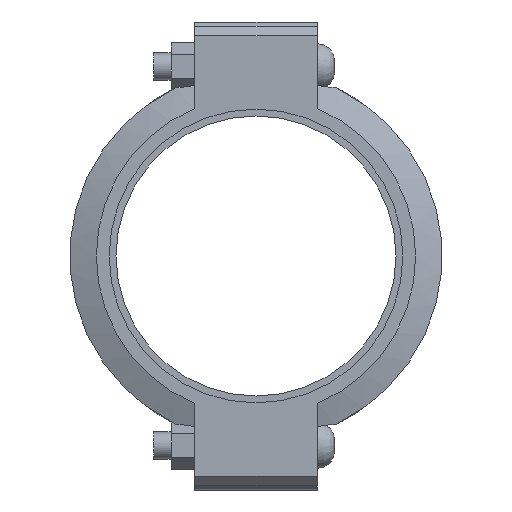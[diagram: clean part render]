
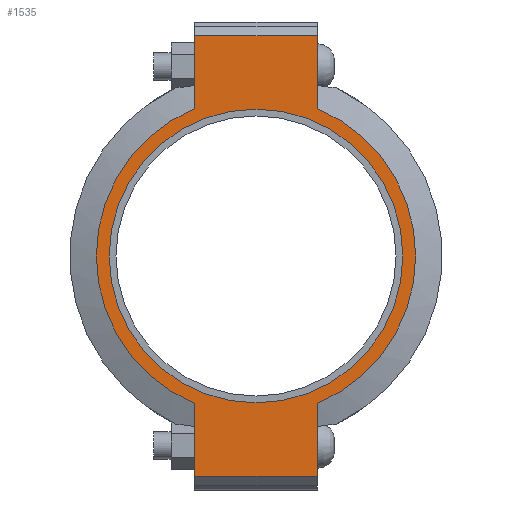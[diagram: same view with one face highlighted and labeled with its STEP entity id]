
A CAD part, left-side view. The second image highlights one B-rep face of the part: STEP entity #1535.
In plain terms, the highlighted planar face has unit normal (-1, 0, 0) as drawn and (0, 0, 1) by its records, which use the part's own axes.
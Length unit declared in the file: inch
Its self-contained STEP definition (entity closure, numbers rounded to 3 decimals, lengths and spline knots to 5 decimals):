
#162=LINE('',#2617,#249);
#173=LINE('',#2668,#260);
#179=LINE('',#2694,#266);
#181=LINE('',#2697,#268);
#182=LINE('',#2702,#269);
#183=LINE('',#2703,#270);
#249=VECTOR('',#2115,0.3937);
#260=VECTOR('',#2146,0.3937);
#266=VECTOR('',#2164,0.3937);
#268=VECTOR('',#2168,0.3937);
#269=VECTOR('',#2173,0.3937);
#270=VECTOR('',#2174,0.3937);
#328=FACE_BOUND('',#487,.T.);
#388=FACE_OUTER_BOUND('',#486,.T.);
#486=EDGE_LOOP('',(#1224,#1225,#1226,#1227,#1228,#1229,#1230,#1231));
#487=EDGE_LOOP('',(#1232));
#592=CIRCLE('',#1780,5.845);
#593=CIRCLE('',#1781,5.845);
#594=CIRCLE('',#1782,5.375);
#701=VERTEX_POINT('',#2614);
#702=VERTEX_POINT('',#2616);
#719=VERTEX_POINT('',#2663);
#720=VERTEX_POINT('',#2667);
#727=VERTEX_POINT('',#2689);
#728=VERTEX_POINT('',#2693);
#729=VERTEX_POINT('',#2699);
#730=VERTEX_POINT('',#2701);
#731=VERTEX_POINT('',#2705);
#871=EDGE_CURVE('',#702,#701,#162,.T.);
#892=EDGE_CURVE('',#720,#719,#173,.T.);
#903=EDGE_CURVE('',#728,#727,#179,.T.);
#905=EDGE_CURVE('',#728,#701,#181,.T.);
#906=EDGE_CURVE('',#727,#729,#592,.T.);
#907=EDGE_CURVE('',#729,#730,#182,.T.);
#908=EDGE_CURVE('',#720,#730,#183,.T.);
#909=EDGE_CURVE('',#719,#702,#593,.T.);
#910=EDGE_CURVE('',#731,#731,#594,.T.);
#1224=ORIENTED_EDGE('',*,*,#905,.F.);
#1225=ORIENTED_EDGE('',*,*,#903,.T.);
#1226=ORIENTED_EDGE('',*,*,#906,.T.);
#1227=ORIENTED_EDGE('',*,*,#907,.T.);
#1228=ORIENTED_EDGE('',*,*,#908,.F.);
#1229=ORIENTED_EDGE('',*,*,#892,.T.);
#1230=ORIENTED_EDGE('',*,*,#909,.T.);
#1231=ORIENTED_EDGE('',*,*,#871,.T.);
#1232=ORIENTED_EDGE('',*,*,#910,.T.);
#1387=PLANE('',#1779);
#1535=ADVANCED_FACE('',(#388,#328),#1387,.T.);
#1779=AXIS2_PLACEMENT_3D('',#2698,#2169,#2170);
#1780=AXIS2_PLACEMENT_3D('',#2700,#2171,#2172);
#1781=AXIS2_PLACEMENT_3D('',#2704,#2175,#2176);
#1782=AXIS2_PLACEMENT_3D('',#2706,#2177,#2178);
#2115=DIRECTION('',(-1.,0.,0.));
#2146=DIRECTION('',(-1.,0.,0.));
#2164=DIRECTION('',(1.,0.,0.));
#2168=DIRECTION('',(0.,1.,0.));
#2169=DIRECTION('center_axis',(0.,0.,1.));
#2170=DIRECTION('ref_axis',(1.,0.,0.));
#2171=DIRECTION('center_axis',(0.,0.,1.));
#2172=DIRECTION('ref_axis',(-1.,0.,0.));
#2173=DIRECTION('',(1.,0.,0.));
#2174=DIRECTION('',(0.,-1.,0.));
#2175=DIRECTION('center_axis',(0.,0.,1.));
#2176=DIRECTION('ref_axis',(-1.,0.,0.));
#2177=DIRECTION('center_axis',(0.,0.,-1.));
#2178=DIRECTION('ref_axis',(-1.,0.,0.));
#2614=CARTESIAN_POINT('',(-8.065,2.25,1.315));
#2616=CARTESIAN_POINT('',(-5.39458,2.25,1.315));
#2617=CARTESIAN_POINT('',(8.565,2.25,1.315));
#2663=CARTESIAN_POINT('',(5.39458,2.25,1.315));
#2667=CARTESIAN_POINT('',(8.065,2.25,1.315));
#2668=CARTESIAN_POINT('',(8.565,2.25,1.315));
#2689=CARTESIAN_POINT('',(-5.39458,-2.25,1.315));
#2693=CARTESIAN_POINT('',(-8.065,-2.25,1.315));
#2694=CARTESIAN_POINT('',(-8.565,-2.25,1.315));
#2697=CARTESIAN_POINT('',(-8.065,1.125,1.315));
#2698=CARTESIAN_POINT('Origin',(0.,0.,
1.315));
#2699=CARTESIAN_POINT('',(5.39458,-2.25,1.315));
#2700=CARTESIAN_POINT('Origin',(0.,0.,1.315));
#2701=CARTESIAN_POINT('',(8.065,-2.25,1.315));
#2702=CARTESIAN_POINT('',(-8.565,-2.25,1.315));
#2703=CARTESIAN_POINT('',(8.065,-1.125,1.315));
#2704=CARTESIAN_POINT('Origin',(0.,0.,1.315));
#2705=CARTESIAN_POINT('',(5.375,0.,1.315));
#2706=CARTESIAN_POINT('Origin',(0.,0.,1.315));
